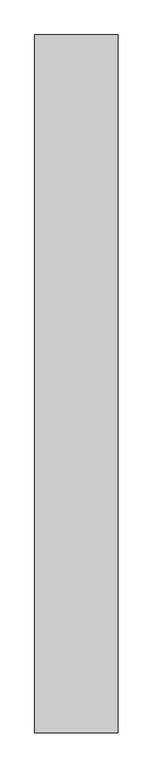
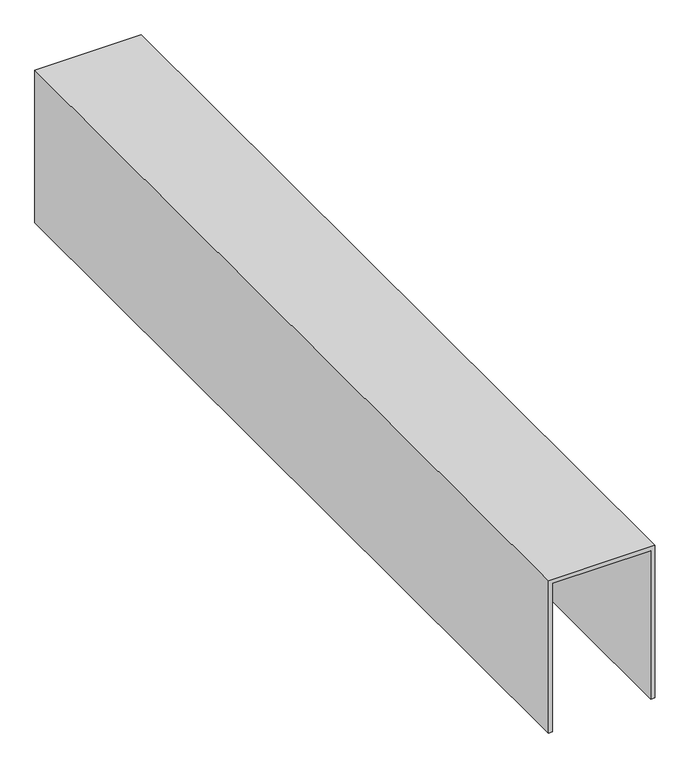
"""IFC4 building model written with IfcOpenShell, lengths in millimetres: furniture geometry, Cenefa Yeso : Cenefa Yeso."""

from ifc_helpers import new_model, si_unit, frame, origin, place, context, project, spatial, polyline, outline, extrude, source, transform, mapped, element, save


def furniture_46a57376(model_context):
    return source(origin(), model_context, "Body", "SweptSolid", [
        extrude(outline(polyline([(500.0, -165.0), (0.0, -165.0), (0.0, -152.5), (487.5, -152.5), (487.5, 152.5), (0.0, 152.5), (0.0, 165.0), (500.0, 165.0), (500.0, -165.0)])), frame((0.0, 0.0, 0.0), z_axis=(0.0, 1.0, 0.0), x_axis=(0.0, 0.0, 1.0)), (0.0, 0.0, 1.0), 2760.0),
    ])


if __name__ == "__main__":
    model = new_model("IFC4")
    model_context = context("Model", 3, world=origin())
    ifc_project = project(units=[si_unit("LENGTHUNIT", "METRE", prefix="MILLI")], contexts=[model_context])
    site = spatial("IfcSite", under=ifc_project)
    building = spatial("IfcBuilding", under=site)
    placement = place(None, origin())
    furniture_shape = furniture_46a57376(model_context)
    element("IfcFurniture", 1, ObjectType="Cenefa Yeso : Cenefa Yeso", at=placement, inside=building, context=model_context, shape_type="MappedRepresentation", body=[
        mapped(furniture_shape, transform((0.0, 0.0, 0.0), x_axis=(1.0, 0.0, 0.0), y_axis=(0.0, 1.0, 0.0), z_axis=(0.0, 0.0, 1.0))),
    ])
    save(model, "model.ifc")
